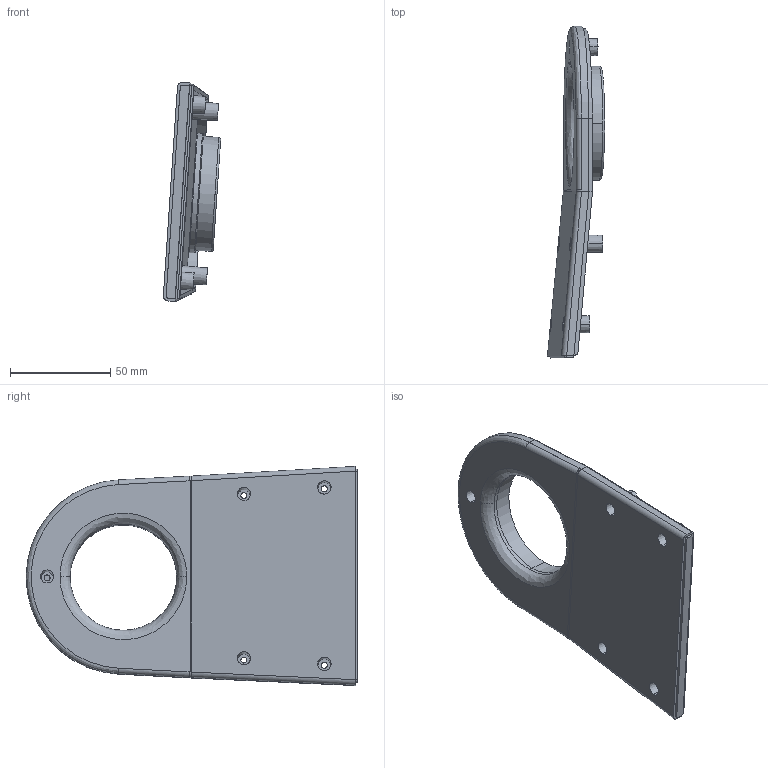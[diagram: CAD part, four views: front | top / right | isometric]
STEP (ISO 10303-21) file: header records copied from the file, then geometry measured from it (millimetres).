
FILE_DESCRIPTION (( 'STEP AP203' ), '1' );
FILE_NAME ('Plaque carter équilibrage_2_Défaut_sldprt.STEP', '2018-04-06T14:28:52', ( '' ), ( '' ), 'SwSTEP 2.0', 'SolidWorks 2013', '' );
FILE_SCHEMA (( 'CONFIG_CONTROL_DESIGN' ));
Length unit declared in the file: millimetre
Products named in the file (1): Plaque carter équilibrage_2_Défaut_sldprt
Bounding box: 28.5 x 165.18 x 109.1 mm (x, y, z)
Volume: 54354.2 mm3; surface area: 39871.7 mm2
Topology: 1 solids, 1 shells, 122 faces, 290 edges, 188 vertices
Faces by surface type: plane 49, cone 41, cylinder 19, bspline 13
Entity records: 4867 total; most frequent: CARTESIAN_POINT 1999, ORIENTED_EDGE 580, DIRECTION 573, EDGE_CURVE 290, AXIS2_PLACEMENT_3D 217, VERTEX_POINT 188, EDGE_LOOP 150, LINE 139
